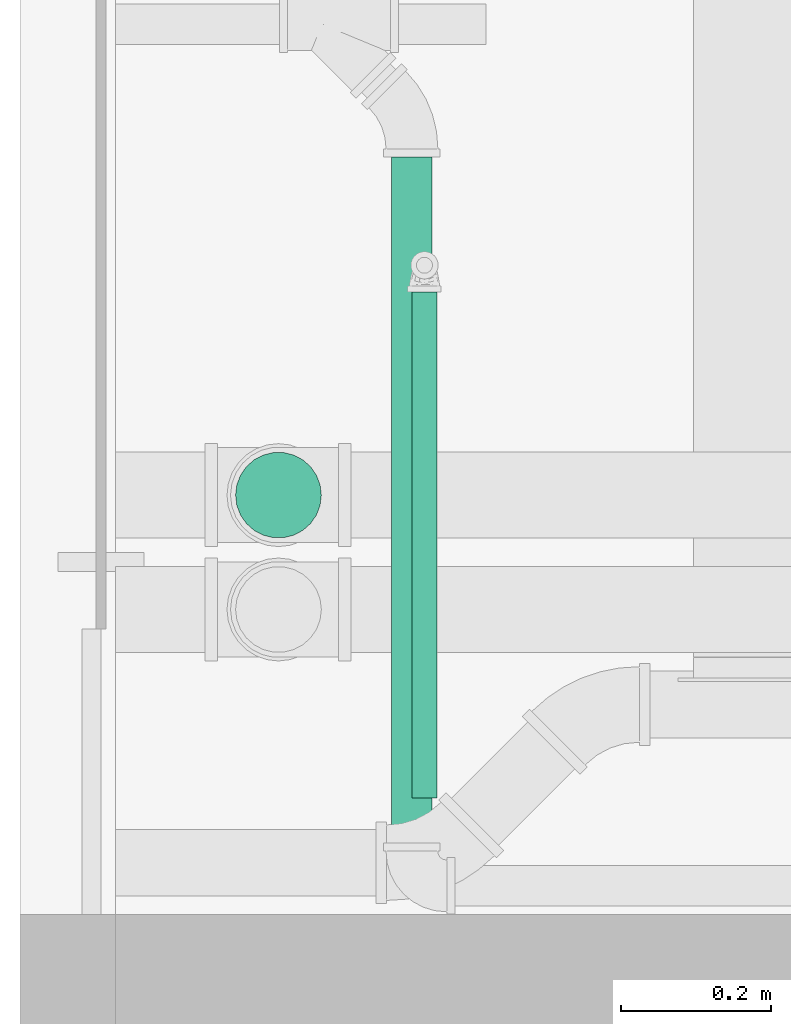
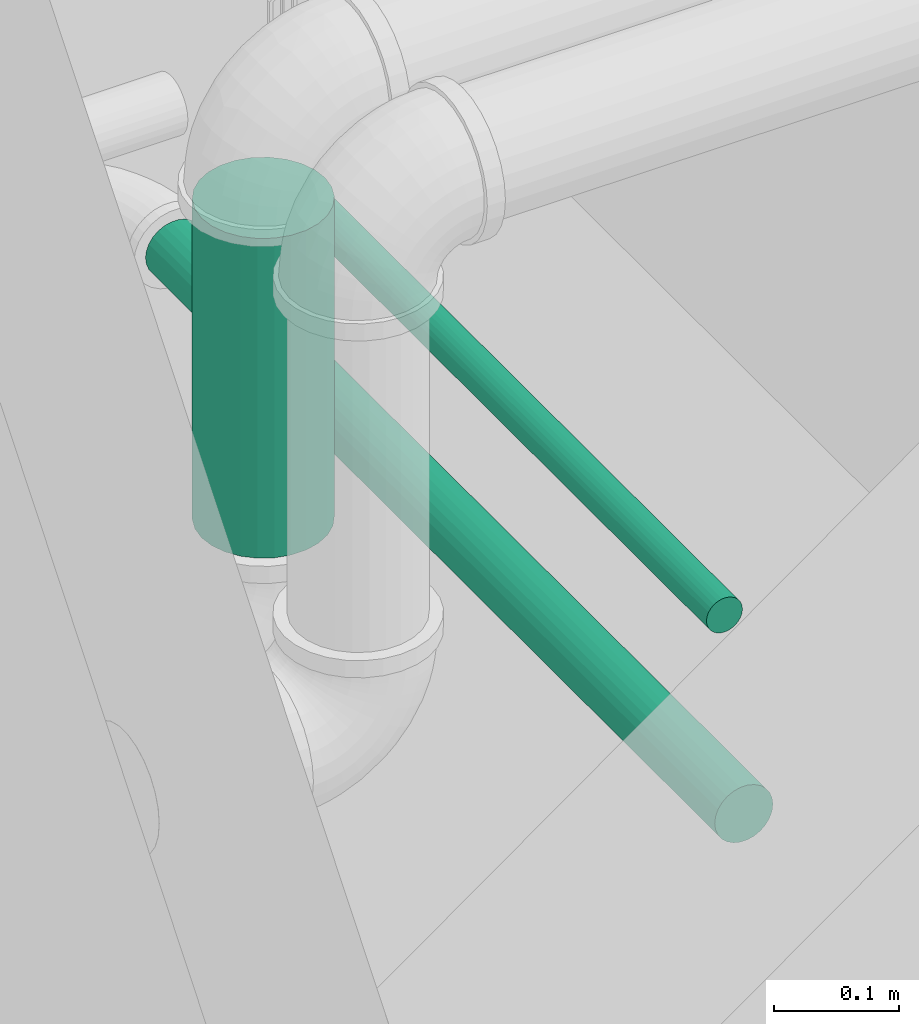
# One storey, part 50 of 108: 3 pipe segments.
"""IFC4 building model written with IfcOpenShell, lengths in feet."""

from ifc_helpers import new_model, entity, si_unit, converted_unit, derived_unit, direction, frame, origin, origin_2d_with_axis, place, context, subcontext, project, spatial, circle, extrude, type_object, element, save


model = new_model("IFC4")

# Units and contexts
model_context = context("Model", 3, precision=0.0001, world=origin(), true_north=direction((6.12303176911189e-17, 1.0)))
body_context = subcontext(model_context, "Body", "Model", "MODEL_VIEW")
ifc_project = project(units=[converted_unit("LENGTHUNIT", "FOOT", entity("IfcRatioMeasure", 0.3048), si_unit("LENGTHUNIT", "METRE"), dimensions=[1, 0, 0, 0, 0, 0, 0]), converted_unit("AREAUNIT", "SQUARE FOOT", entity("IfcRatioMeasure", 0.09290304), si_unit("AREAUNIT", "SQUARE_METRE"), dimensions=[2, 0, 0, 0, 0, 0, 0]), converted_unit("VOLUMEUNIT", "CUBIC FOOT", entity("IfcRatioMeasure", 0.028316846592), si_unit("VOLUMEUNIT", "CUBIC_METRE"), dimensions=[3, 0, 0, 0, 0, 0, 0]), converted_unit("PLANEANGLEUNIT", "DEGREE", entity("IfcRatioMeasure", 0.0174532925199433), si_unit("PLANEANGLEUNIT", "RADIAN"), dimensions=[0, 0, 0, 0, 0, 0, 0]), si_unit("MASSUNIT", "GRAM", prefix="KILO"), derived_unit("MASSDENSITYUNIT", [(si_unit("MASSUNIT", "GRAM", prefix="KILO"), 1), (si_unit("LENGTHUNIT", "METRE"), -3)]), si_unit("TIMEUNIT", "SECOND"), si_unit("FREQUENCYUNIT", "HERTZ"), si_unit("THERMODYNAMICTEMPERATUREUNIT", "DEGREE_CELSIUS"), derived_unit("THERMALTRANSMITTANCEUNIT", [(si_unit("MASSUNIT", "GRAM", prefix="KILO"), 1), (si_unit("THERMODYNAMICTEMPERATUREUNIT", "KELVIN"), -1), (si_unit("TIMEUNIT", "SECOND"), -3)]), derived_unit("VOLUMETRICFLOWRATEUNIT", [(si_unit("LENGTHUNIT", "METRE"), 3), (si_unit("TIMEUNIT", "SECOND"), -1)]), si_unit("ELECTRICCURRENTUNIT", "AMPERE"), si_unit("ELECTRICVOLTAGEUNIT", "VOLT"), si_unit("POWERUNIT", "WATT"), si_unit("FORCEUNIT", "NEWTON"), si_unit("ILLUMINANCEUNIT", "LUX"), si_unit("LUMINOUSFLUXUNIT", "LUMEN"), si_unit("LUMINOUSINTENSITYUNIT", "CANDELA"), derived_unit("USERDEFINED", [(si_unit("MASSUNIT", "GRAM", prefix="KILO"), -1), (si_unit("LENGTHUNIT", "METRE"), -2), (si_unit("TIMEUNIT", "SECOND"), 3), (si_unit("LUMINOUSFLUXUNIT", "LUMEN"), 1)]), derived_unit("LINEARVELOCITYUNIT", [(si_unit("LENGTHUNIT", "METRE"), 1), (si_unit("TIMEUNIT", "SECOND"), -1)]), si_unit("PRESSUREUNIT", "PASCAL"), derived_unit("USERDEFINED", [(si_unit("LENGTHUNIT", "METRE"), -2), (si_unit("MASSUNIT", "GRAM", prefix="KILO"), 1), (si_unit("TIMEUNIT", "SECOND"), -2)])], contexts=[model_context])

# Site, building, storey
site_placement = place(None, origin())
site = spatial("IfcSite", under=ifc_project, at=site_placement, Name="Default", CompositionType="ELEMENT")
building_placement = place(site_placement, origin())
building = spatial("IfcBuilding", under=site, at=building_placement, CompositionType="ELEMENT")
storey_placement = place(building_placement, frame((0.0, 0.0, 168.0)))
storey = spatial("IfcBuildingStorey", under=building, at=storey_placement, Name="Level 15", CompositionType="ELEMENT", Elevation=168.0)

# Pipe segments
pipe_segment_type_1 = type_object("IfcPipeSegmentType", Name="Pipe Types:Fire Prot Sched 10 Main", PredefinedType="NOTDEFINED")
pipe_segment_1_placement = place(storey_placement, frame((-58.37971384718, 10.8063231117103, 10.106641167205)))
element("IfcPipeSegment", 1, at=pipe_segment_1_placement, inside=storey, type_object=pipe_segment_type_1, Name="Pipe Types:Fire Prot Sched 10 Main", ObjectType="Pipe Types:Fire Prot Sched 10 Main", PredefinedType="NOTDEFINED", context=body_context, shape_type="SweptSolid", body=[
    extrude(circle(Radius=0.0547916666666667, at=origin_2d_with_axis()), frame((0.0600254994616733, 0.0, 0.0600254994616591), z_axis=(0.0, 1.0, 0.0), x_axis=(1.0, 0.0, 0.0)), (0.0, 0.0, 1.0), 2.21199612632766),
])
pipe_segment_type_2 = type_object("IfcPipeSegmentType", Name="Pipe Types:Hydronic", PredefinedType="NOTDEFINED")
pipe_segment_2_placement = place(storey_placement, frame((-58.4682555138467, 10.6093455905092, 9.572891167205)))
element("IfcPipeSegment", 2, at=pipe_segment_2_placement, inside=storey, type_object=pipe_segment_type_2, Name="Pipe Types:Hydronic", ObjectType="Pipe Types:Hydronic", PredefinedType="NOTDEFINED", context=body_context, shape_type="SweptSolid", body=[
    extrude(circle(Radius=0.0885416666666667, at=origin_2d_with_axis()), frame((0.093775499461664, 0.0, 0.0937754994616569), z_axis=(0.0, 1.0, 0.0), x_axis=(1.0, 0.0, 0.0)), (0.0, 0.0, 1.0), 2.9981303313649),
])
pipe_segment_3_placement = place(storey_placement, frame((-59.150839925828, 11.9370127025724, 9.90127604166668)))
element("IfcPipeSegment", 3, at=pipe_segment_3_placement, inside=storey, type_object=pipe_segment_type_2, Name="Pipe Types:Hydronic", ObjectType="Pipe Types:Hydronic", PredefinedType="NOTDEFINED", context=body_context, shape_type="SweptSolid", body=[
    extrude(circle(Radius=0.1875, at=origin_2d_with_axis()), frame((0.192733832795, 0.192733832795, 0.0)), (0.0, 0.0, 1.0), 1.02761718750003),
])

save(model, "model.ifc")
